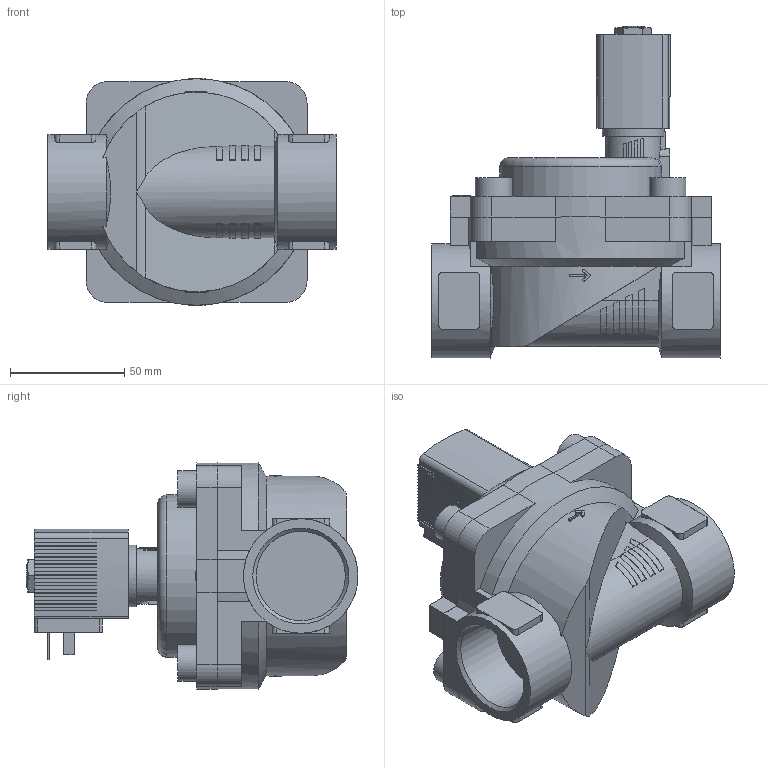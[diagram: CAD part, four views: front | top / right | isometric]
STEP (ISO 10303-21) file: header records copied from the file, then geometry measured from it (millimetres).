
FILE_DESCRIPTION(/* description */ ('STEP AP214'),/* implementation_level */ '2;1');
FILE_NAME(/* name */ '6281-302203-2_2-Way_Solenoid_Valve__Servo-assisted__General_Purpose',/* time_stamp */ '2024-06-19T15:45:54+02:00',/* author */ ('License CC BY-ND 4.0'),/* organization */ ('CADENAS'),/* preprocessor_version */ 'ST-DEVELOPER v19.3',/* originating_system */ 'PARTsolutions',/* authorisation */ ' ');
FILE_SCHEMA (('AUTOMOTIVE_DESIGN {1 0 10303 214 3 1 1}'));
Length unit declared in the file: millimetre
Products named in the file (4): 6281-302203-2/2-Way Solenoid Valve, Servo-assisted, General Purpose; 5281ev400MS2/2-Wege-Magnetventil mit Servomembran-Deckel 99 ; 6213-40G1_1/4MS-Gehaeuse-; AC10ex-5OO-Plan-Coil
Assembly tree (3 placements, depth 2):
  6281-302203-2/2-Way Solenoid Valve, Servo-assisted, General Purpose
    5281ev400MS2/2-Wege-Magnetventil mit Servomembran-Deckel 99 
    6213-40G1_1/4MS-Gehaeuse-
    AC10ex-5OO-Plan-Coil
Bounding box: 126 x 145 x 99 mm (x, y, z)
Volume: 592460.6 mm3; surface area: 86851.9 mm2
Topology: 3 solids, 3 shells, 546 faces, 1533 edges, 1017 vertices
Faces by surface type: plane 438, cylinder 92, cone 15, torus 1
Full cylindrical faces by diameter (mm): 2.013 x1, 9.74 x1, 16 x4, 27 x1, 38.952 x2, 50 x2
Entity records: 20169 total; most frequent: CARTESIAN_POINT 3338, ORIENTED_EDGE 3020, DIRECTION 2856, EDGE_CURVE 1510, LINE 1124, VECTOR 1124, VERTEX_POINT 1009, AXIS2_PLACEMENT_3D 866
